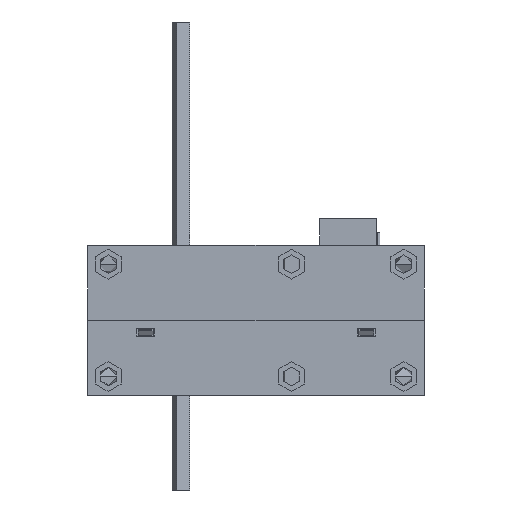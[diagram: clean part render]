
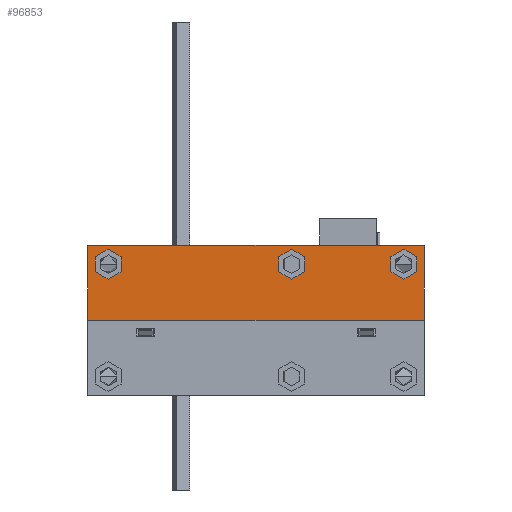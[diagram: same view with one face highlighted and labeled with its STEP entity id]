
A CAD part, front view. The second image highlights one B-rep face of the part: STEP entity #96853.
In plain terms, the highlighted planar face has unit normal (0, -1, 0) as drawn and (0, 1, 0) by its records, which use the part's own axes.
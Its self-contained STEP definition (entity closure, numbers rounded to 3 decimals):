
#1902 = VERTEX_POINT ( 'NONE', #72945 ) ;
#6040 = EDGE_CURVE ( 'NONE', #34789, #80441, #11325, .T. ) ;
#8113 = VECTOR ( 'NONE', #18045, 1000. ) ;
#8295 = VERTEX_POINT ( 'NONE', #62303 ) ;
#9149 = EDGE_LOOP ( 'NONE', ( #122241, #57994 ) ) ;
#10400 = LINE ( 'NONE', #101970, #138023 ) ;
#11141 = DIRECTION ( 'NONE',  ( 0., 0., -1. ) ) ;
#11152 = CARTESIAN_POINT ( 'NONE',  ( -39.5, 15., 1. ) ) ;
#11325 = CIRCLE ( 'NONE', #114402, 4. ) ;
#13327 = VERTEX_POINT ( 'NONE', #70141 ) ;
#14215 = DIRECTION ( 'NONE',  ( 0., 0., 1. ) ) ;
#16475 = CARTESIAN_POINT ( 'NONE',  ( -45., 15., 20. ) ) ;
#17451 = DIRECTION ( 'NONE',  ( 0., 0., -1. ) ) ;
#18045 = DIRECTION ( 'NONE',  ( 0., 0., -1. ) ) ;
#18113 = DIRECTION ( 'NONE',  ( 0., 0., 1. ) ) ;
#19278 = DIRECTION ( 'NONE',  ( 0., 0., 1. ) ) ;
#24163 = EDGE_CURVE ( 'NONE', #77495, #42123, #142205, .T. ) ;
#28340 = AXIS2_PLACEMENT_3D ( 'NONE', #71973, #68995, #14215 ) ;
#28706 = DIRECTION ( 'NONE',  ( 0., -1., 0. ) ) ;
#29172 = DIRECTION ( 'NONE',  ( -1., 0., 0. ) ) ;
#34789 = VERTEX_POINT ( 'NONE', #142590 ) ;
#39927 = CARTESIAN_POINT ( 'NONE',  ( -45., 15., 0. ) ) ;
#40712 = FACE_BOUND ( 'NONE', #9149, .T. ) ;
#42123 = VERTEX_POINT ( 'NONE', #101875 ) ;
#43379 = CARTESIAN_POINT ( 'NONE',  ( 39.5, 15., 5. ) ) ;
#43477 = EDGE_CURVE ( 'NONE', #87557, #72880, #97615, .T. ) ;
#44840 = VECTOR ( 'NONE', #29172, 1000. ) ;
#47070 = ORIENTED_EDGE ( 'NONE', *, *, #43477, .T. ) ;
#50518 = PLANE ( 'NONE',  #120799 ) ;
#53495 = AXIS2_PLACEMENT_3D ( 'NONE', #147402, #76898, #135409 ) ;
#54224 = VECTOR ( 'NONE', #109736, 1000. ) ;
#57994 = ORIENTED_EDGE ( 'NONE', *, *, #6040, .F. ) ;
#59313 = CIRCLE ( 'NONE', #143191, 4. ) ;
#62303 = CARTESIAN_POINT ( 'NONE',  ( 9.5, 15., 1. ) ) ;
#64130 = ORIENTED_EDGE ( 'NONE', *, *, #65270, .F. ) ;
#64613 = DIRECTION ( 'NONE',  ( 0., 1., 0. ) ) ;
#64704 = FACE_BOUND ( 'NONE', #91123, .T. ) ;
#65270 = EDGE_CURVE ( 'NONE', #87557, #13327, #129078, .T. ) ;
#65779 = ORIENTED_EDGE ( 'NONE', *, *, #24163, .T. ) ;
#65792 = DIRECTION ( 'NONE',  ( 0., 1., 0. ) ) ;
#68995 = DIRECTION ( 'NONE',  ( 0., 1., 0. ) ) ;
#70141 = CARTESIAN_POINT ( 'NONE',  ( -45., 15., 20. ) ) ;
#71200 = CARTESIAN_POINT ( 'NONE',  ( -45., 15., 0. ) ) ;
#71973 = CARTESIAN_POINT ( 'NONE',  ( 9.5, 15., 5. ) ) ;
#72880 = VERTEX_POINT ( 'NONE', #81905 ) ;
#72945 = CARTESIAN_POINT ( 'NONE',  ( 9.5, 15., 9. ) ) ;
#75358 = EDGE_CURVE ( 'NONE', #72880, #139497, #86450, .T. ) ;
#76498 = CARTESIAN_POINT ( 'NONE',  ( 39.5, 15., 9. ) ) ;
#76898 = DIRECTION ( 'NONE',  ( 0., -1., 0. ) ) ;
#77495 = VERTEX_POINT ( 'NONE', #11152 ) ;
#79331 = EDGE_LOOP ( 'NONE', ( #146250, #65779 ) ) ;
#80441 = VERTEX_POINT ( 'NONE', #76498 ) ;
#81905 = CARTESIAN_POINT ( 'NONE',  ( 45., 15., 0. ) ) ;
#86450 = LINE ( 'NONE', #39927, #54224 ) ;
#86494 = CARTESIAN_POINT ( 'NONE',  ( -45., 15., 20. ) ) ;
#87557 = VERTEX_POINT ( 'NONE', #105278 ) ;
#89247 = CARTESIAN_POINT ( 'NONE',  ( -39.5, 15., 5. ) ) ;
#91123 = EDGE_LOOP ( 'NONE', ( #131524, #109537 ) ) ;
#96853 = ADVANCED_FACE ( 'NONE', ( #120284, #64704, #40712, #130802 ), #50518, .F. ) ;
#97615 = LINE ( 'NONE', #141189, #8113 ) ;
#100617 = CARTESIAN_POINT ( 'NONE',  ( 39.5, 15., 5. ) ) ;
#101875 = CARTESIAN_POINT ( 'NONE',  ( -39.5, 15., 9. ) ) ;
#101970 = CARTESIAN_POINT ( 'NONE',  ( -45., 15., 20. ) ) ;
#102241 = ORIENTED_EDGE ( 'NONE', *, *, #75358, .T. ) ;
#104485 = ORIENTED_EDGE ( 'NONE', *, *, #106545, .F. ) ;
#105278 = CARTESIAN_POINT ( 'NONE',  ( 45., 15., 20. ) ) ;
#106545 = EDGE_CURVE ( 'NONE', #13327, #139497, #10400, .T. ) ;
#109537 = ORIENTED_EDGE ( 'NONE', *, *, #143839, .F. ) ;
#109736 = DIRECTION ( 'NONE',  ( -1., 0., 0. ) ) ;
#109891 = CIRCLE ( 'NONE', #28340, 4. ) ;
#111672 = CIRCLE ( 'NONE', #142848, 4. ) ;
#113959 = DIRECTION ( 'NONE',  ( 0., 1., 0. ) ) ;
#114402 = AXIS2_PLACEMENT_3D ( 'NONE', #100617, #64613, #18113 ) ;
#120284 = FACE_OUTER_BOUND ( 'NONE', #126469, .T. ) ;
#120799 = AXIS2_PLACEMENT_3D ( 'NONE', #86494, #28706, #17451 ) ;
#120929 = EDGE_CURVE ( 'NONE', #80441, #34789, #111672, .T. ) ;
#122241 = ORIENTED_EDGE ( 'NONE', *, *, #120929, .F. ) ;
#123754 = DIRECTION ( 'NONE',  ( 0., 0., 1. ) ) ;
#124714 = AXIS2_PLACEMENT_3D ( 'NONE', #89247, #135009, #123754 ) ;
#126469 = EDGE_LOOP ( 'NONE', ( #102241, #104485, #64130, #47070 ) ) ;
#129078 = LINE ( 'NONE', #16475, #44840 ) ;
#130802 = FACE_BOUND ( 'NONE', #79331, .T. ) ;
#131246 = EDGE_CURVE ( 'NONE', #1902, #8295, #109891, .T. ) ;
#131524 = ORIENTED_EDGE ( 'NONE', *, *, #131246, .F. ) ;
#133955 = EDGE_CURVE ( 'NONE', #42123, #77495, #134233, .T. ) ;
#134233 = CIRCLE ( 'NONE', #124714, 4. ) ;
#135009 = DIRECTION ( 'NONE',  ( 0., -1., 0. ) ) ;
#135409 = DIRECTION ( 'NONE',  ( 0., 0., 1. ) ) ;
#138023 = VECTOR ( 'NONE', #11141, 1000. ) ;
#139497 = VERTEX_POINT ( 'NONE', #71200 ) ;
#141189 = CARTESIAN_POINT ( 'NONE',  ( 45., 15., 20. ) ) ;
#142205 = CIRCLE ( 'NONE', #53495, 4. ) ;
#142590 = CARTESIAN_POINT ( 'NONE',  ( 39.5, 15., 1. ) ) ;
#142848 = AXIS2_PLACEMENT_3D ( 'NONE', #43379, #113959, #147674 ) ;
#143191 = AXIS2_PLACEMENT_3D ( 'NONE', #145344, #65792, #19278 ) ;
#143839 = EDGE_CURVE ( 'NONE', #8295, #1902, #59313, .T. ) ;
#145344 = CARTESIAN_POINT ( 'NONE',  ( 9.5, 15., 5. ) ) ;
#146250 = ORIENTED_EDGE ( 'NONE', *, *, #133955, .T. ) ;
#147402 = CARTESIAN_POINT ( 'NONE',  ( -39.5, 15., 5. ) ) ;
#147674 = DIRECTION ( 'NONE',  ( 0., 0., 1. ) ) ;
